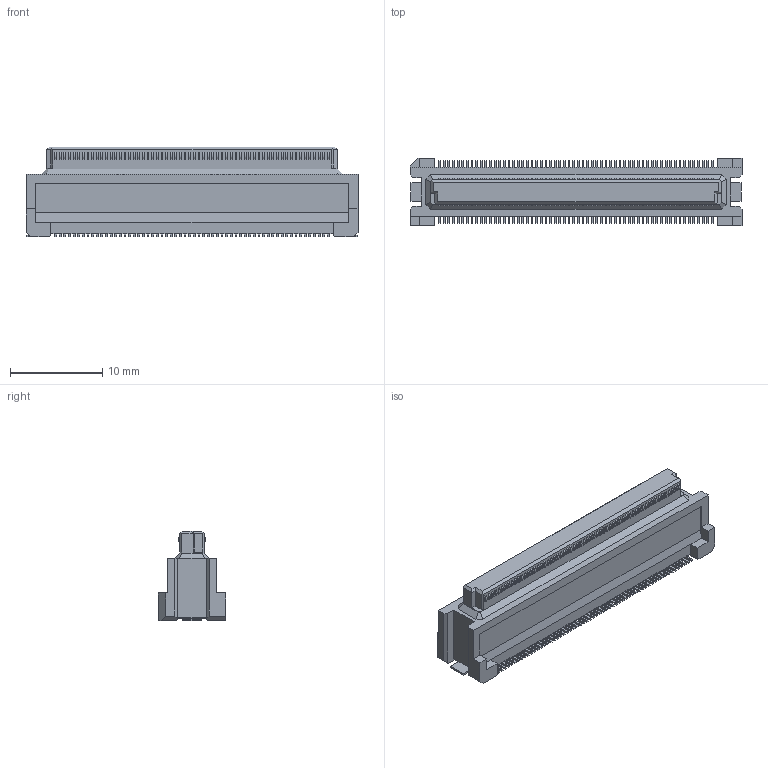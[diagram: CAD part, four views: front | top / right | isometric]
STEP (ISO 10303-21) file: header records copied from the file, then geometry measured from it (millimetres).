
FILE_DESCRIPTION(('Creo Elements/Direct Modeling STEP Export'),'2;1');
FILE_NAME('DY10-120FS-1.stp','2017-11-28T11:42:26',(''),(''),'Creo Elements/Direct Modeling STEP processor for AP214 (Solid Model)','Creo Elements/Direct Modeling 19.0F 14-Feb-2017 (C) Parametric Technology GmbH','');
FILE_SCHEMA(('AUTOMOTIVE_DESIGN { 1 0 10303 214 1 1 1 1 }'));
Products named in the file (2): DY10-120FS-1
Assembly tree (1 placements, depth 2):
  DY10-120FS-1
    DY10-120FS-1
Bounding box: 35.9 x 7.3 x 9.73 mm (x, y, z)
Volume: 1413.2 mm3; surface area: 1376 mm2
Topology: 1 solids, 1 shells, 2788 faces, 7949 edges, 5286 vertices
Faces by surface type: plane 2056, cylinder 724, bspline 8
Entity records: 87552 total; most frequent: CARTESIAN_POINT 16430, ORIENTED_EDGE 15898, DIRECTION 13690, EDGE_CURVE 7949, VECTOR 5918, LINE 5918, VERTEX_POINT 5286, AXIS2_PLACEMENT_3D 3886
